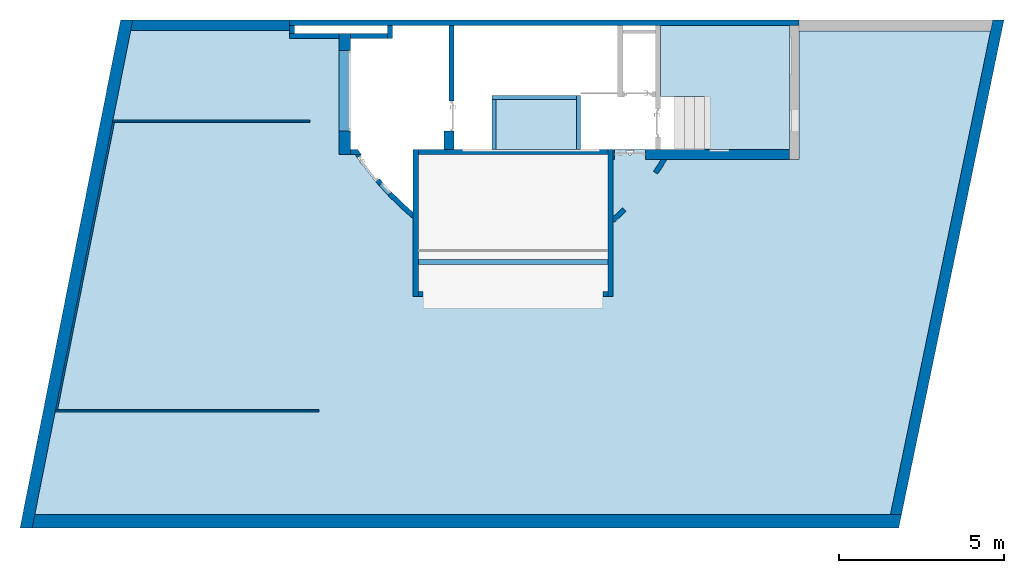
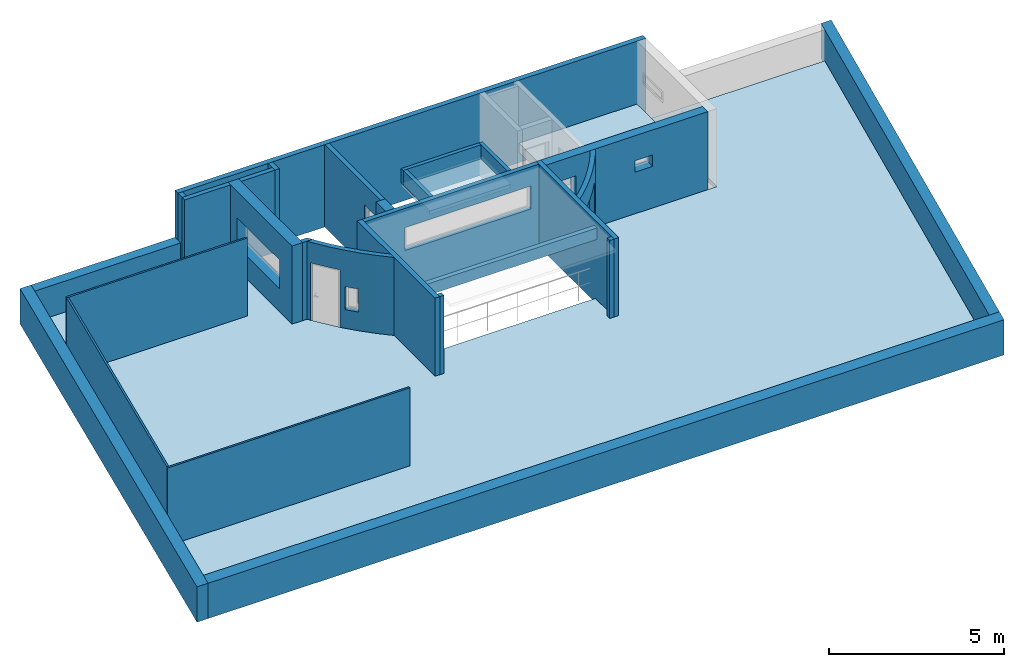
"""IFC4 building model written with IfcOpenShell, lengths in metres."""

from ifc_helpers import new_model, entity, si_unit, converted_unit, derived_unit, frame, frame_2d, origin, origin_with_axes, place, context, subcontext, project, spatial, polyline, rectangle, outline, extrude, clip, bounded_halfspace, faceted_brep, material, layer, layer_set, layer_usage, element, save


model = new_model("IFC4")

# Units and contexts
model_context = context("Model", 3, precision=1e-05, world=origin())
body_context = subcontext(model_context, "Body", "Model", "MODEL_VIEW")
ifc_project = project(units=[si_unit("LENGTHUNIT", "METRE"), si_unit("AREAUNIT", "SQUARE_METRE"), si_unit("VOLUMEUNIT", "CUBIC_METRE"), si_unit("MASSUNIT", "GRAM", prefix="KILO"), converted_unit("PLANEANGLEUNIT", "DEGREE", entity("IfcPlaneAngleMeasure", 0.0174532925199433), si_unit("PLANEANGLEUNIT", "RADIAN"), dimensions=[0, 0, 0, 0, 0, 0, 0]), derived_unit("THERMALTRANSMITTANCEUNIT", [(si_unit("POWERUNIT", "WATT"), 1), (si_unit("THERMODYNAMICTEMPERATUREUNIT", "KELVIN"), -1), (si_unit("LENGTHUNIT", "METRE"), -2)]), derived_unit("VOLUMETRICFLOWRATEUNIT", [(si_unit("LENGTHUNIT", "METRE"), 3), (converted_unit("TIMEUNIT", "hour", entity("IfcTimeMeasure", 3600.0), si_unit("TIMEUNIT", "SECOND"), dimensions=[0, 0, 1, 0, 0, 0, 0]), -1), (si_unit("LENGTHUNIT", "METRE"), -1)])], contexts=[model_context])

# Building, storeys
building_placement = place(None, origin())
building = spatial("IfcBuilding", under=ifc_project, at=building_placement, Name="HABITATGE PLURIFAMILIAR", CompositionType="ELEMENT")
storey_1_placement = place(building_placement, frame((0.0, 0.0, 21.2)))
storey_1 = spatial("IfcBuildingStorey", under=building, at=storey_1_placement, Name="PLANTA SOTACOBERTA", CompositionType="ELEMENT", Elevation=21.2)
storey_2_placement = place(storey_1_placement, origin())
storey_2 = spatial("IfcBuildingStorey", under=storey_1, at=storey_2_placement, Name="NOU", CompositionType="PARTIAL")

# Beam
beam_placement = place(storey_2_placement, frame((409.744883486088, 20.8286756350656, 2.27)))
element("IfcBeam", 1, at=beam_placement, inside=storey_2, Name="Jàssera PSC", PredefinedType="NOTDEFINED", context=body_context, shape_type="Brep", body=[
    faceted_brep([(5.74204814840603, 0.0, 0.0), (0.0, 0.0, 0.0), (0.0, 0.0, 0.4), (5.74204814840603, 0.0, 0.4), (0.0, 0.150000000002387, 0.0), (0.0, 0.150000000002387, 0.4), (5.74204814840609, 0.15, 0.0), (5.74204814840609, 0.15, 0.4)], [[[0, 1, 2, 3]], [[1, 4, 5, 2]], [[4, 6, 7, 5]], [[6, 0, 3, 7]], [[7, 3, 2, 5]], [[0, 6, 4, 1]]], orient=[[False], [False], [False], [False], [False], [False]]),
])

# Slabs
slab_1_placement = place(storey_2_placement, frame((417.076931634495, 24.3095914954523, 0.38)))
element("IfcSlab", 2, at=slab_1_placement, inside=storey_2, Name="Forjat PSC", PredefinedType="FLOOR", context=body_context, shape_type="SweptSolid", body=[
    extrude(outline(polyline([(0.0, 3.76865640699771), (0.0, 1.60750000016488), (1.3285, 1.60750000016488), (1.3285, 0.0), (3.90000000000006, 0.0), (3.90000000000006, 3.76865640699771), (0.0, 3.76865640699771)])), origin_with_axes(), (0.0, 0.0, 1.0), 0.3),
])
slab_2_placement = place(storey_2_placement, frame((398.128939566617, 13.2489804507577, 0.0)))
element("IfcSlab", 3, at=slab_2_placement, inside=storey_2, Name="Paviment PSC", PredefinedType="FLOOR", context=body_context, shape_type="SweptSolid", body=[
    extrude(outline(polyline([(7.70797842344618, 14.6592674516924), (2.90388164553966, 14.6592674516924), (0.0, 0.0), (25.9097949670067, 0.0), (28.9452529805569, 14.6492674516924), (23.1479920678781, 14.6492674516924), (23.1479920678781, 10.7606110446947), (19.1424431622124, 10.7606110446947), (19.0182072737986, 10.5501226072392), (19.0176613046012, 10.5504895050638), (18.8582202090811, 10.3132301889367), (18.7337206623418, 10.396895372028), (18.8808406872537, 10.6158200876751), (18.9675016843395, 10.7606110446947), (18.4929920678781, 10.7606110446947), (18.4929920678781, 11.0606110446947), (17.552992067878, 11.0606110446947), (17.552992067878, 10.7606110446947), (17.507992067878, 10.7606110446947), (17.507992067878, 9.01983134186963), (17.6227632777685, 9.11994710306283), (17.7813356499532, 9.27101005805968), (17.8048103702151, 9.29375739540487), (17.9091943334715, 9.18603558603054), (17.9019655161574, 9.17903075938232), (17.9022586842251, 9.17868547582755), (17.8253364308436, 9.1028507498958), (17.7474354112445, 9.02802181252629), (17.6685687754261, 8.95421129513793), (17.5887498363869, 8.8814316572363), (17.5079920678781, 8.80969518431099), (17.5079920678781, 7.67969518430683), (11.455943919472, 7.67969518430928), (11.455943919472, 8.95793246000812), (11.4216480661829, 8.98516355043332), (11.0664212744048, 9.29888683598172), (10.7281003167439, 9.63077130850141), (10.423304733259, 9.96281235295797), (10.3252926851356, 10.0795910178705), (9.7685709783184, 10.8090410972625), (9.70786206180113, 10.900587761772), (9.2179158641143, 10.9006110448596), (9.2179158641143, 14.4206110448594), (7.7079894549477, 14.4206110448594), (7.70797842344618, 14.6592674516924)]), holes=[polyline([(18.152892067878, 11.0258110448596), (18.0241920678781, 10.8643110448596), (17.8930920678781, 11.0238110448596), (18.152892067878, 11.0258110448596)])]), origin_with_axes(), (0.0, 0.0, 1.0), 0.15),
])
slab_3_placement = place(storey_2_placement, frame((414.536931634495, 24.3095914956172, 2.37)))
element("IfcSlab", 4, at=slab_3_placement, inside=storey_2, Name="Fals sostre PSC", PredefinedType="NOTDEFINED", context=body_context, shape_type="Brep", body=[
    faceted_brep([(0.0, 0.0, 0.0), (0.0, 1.62999999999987, 0.0), (0.0, 1.62999999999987, 0.5), (0.0, 0.0, 0.5), (0.12, 1.62999999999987, 0.0), (0.12, 1.62999999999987, 0.5), (0.12, 0.0, 0.0), (0.12, 0.0, 0.5)], [[[0, 1, 2, 3]], [[1, 4, 5, 2]], [[4, 6, 7, 5]], [[6, 0, 3, 7]], [[7, 3, 2, 5]], [[0, 6, 4, 1]]], orient=[[False], [False], [False], [False], [False], [False]]),
])
slab_4_placement = place(storey_2_placement, frame((411.976449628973, 24.3095914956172, 2.25)))
element("IfcSlab", 5, at=slab_4_placement, inside=storey_2, Name="Fals sostre PSC", PredefinedType="FLOOR", context=body_context, shape_type="SweptSolid", body=[
    extrude(rectangle(XDim=1.62999999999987, YDim=2.68048200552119, at=frame_2d((1.34024100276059, -0.814999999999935), x_axis=(0.0, -1.0))), frame((0.0, 1.62999999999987, 0.0), z_axis=(0.0, 0.0, 1.0), x_axis=(1.0, 0.0, 0.0)), (0.0, 0.0, 1.0), 0.12),
])
slab_5_placement = place(storey_2_placement, frame((411.976449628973, 25.8195914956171, 2.37)))
element("IfcSlab", 6, at=slab_5_placement, inside=storey_2, Name="Fals sostre PSC", PredefinedType="NOTDEFINED", context=body_context, shape_type="Brep", body=[
    faceted_brep([(2.56048200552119, 0.0, 0.0), (0.0, 0.0, 0.0), (0.0, 0.0, 0.5), (2.56048200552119, 0.0, 0.5), (0.0, 0.12, 0.0), (0.0, 0.12, 0.5), (2.56048200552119, 0.12, 0.0), (2.56048200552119, 0.12, 0.5)], [[[0, 1, 2, 3]], [[1, 4, 5, 2]], [[4, 6, 7, 5]], [[6, 0, 3, 7]], [[7, 3, 2, 5]], [[0, 6, 4, 1]]], orient=[[False], [False], [False], [False], [False], [False]]),
])
slab_6_placement = place(storey_2_placement, frame((411.976449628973, 24.3095914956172, 2.37)))
element("IfcSlab", 7, at=slab_6_placement, inside=storey_2, Name="Fals sostre PSC", PredefinedType="NOTDEFINED", context=body_context, shape_type="Brep", body=[
    faceted_brep([(0.12, 1.50999999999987, 0.0), (0.12, 0.0, 0.0), (0.12, 0.0, 0.5), (0.12, 1.50999999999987, 0.5), (0.0, 0.0, 0.0), (0.0, 0.0, 0.5), (0.0, 1.50999999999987, 0.0), (0.0, 1.50999999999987, 0.5)], [[[0, 1, 2, 3]], [[1, 4, 5, 2]], [[4, 6, 7, 5]], [[6, 0, 3, 7]], [[7, 3, 2, 5]], [[0, 6, 4, 1]]], orient=[[False], [False], [False], [False], [False], [False]]),
])

# Wall, openings
ifc_material_1 = material()
ifc_layer_1 = layer(ifc_material_1, 0.3)
ifc_layer_set_1 = layer_set([ifc_layer_1])
ifc_layer_usage_1 = layer_usage(ifc_layer_set_1, "AXIS2", "POSITIVE", 0.0)
wall_1_placement = place(storey_2_placement, frame((415.636931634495, 24.0095914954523, 0.0)))
wall_1 = element("IfcWall", 8, at=wall_1_placement, inside=storey_2, material=ifc_layer_usage_1, Name="Mur PSC", context=body_context, shape_type="SweptSolid", body=[
    extrude(rectangle(XDim=5.34, YDim=0.3, at=frame_2d((2.67, 0.15), x_axis=(1.0, 0.0))), origin_with_axes(), (0.0, 0.0, 1.0), 2.87),
])
opening_1_placement = place(wall_1_placement, frame((2.93, 0.0, 1.6), z_axis=(0.0, 1.0, 0.0), x_axis=(0.0, 0.0, 1.0)))
element("IfcOpeningElement", 9, at=opening_1_placement, cuts=wall_1, Name="Vano finestra PSC", ObjectType="Opening", context=body_context, shape_type="SweptSolid", body=[
    extrude(outline(polyline([(0.4, 0.59), (0.4, 0.0), (0.0, 0.0), (0.0, 0.59), (0.4, 0.59)])), origin_with_axes(), (0.0, 0.0, 1.0), 0.3),
])
opening_2_placement = place(wall_1_placement, frame((0.0449999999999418, 0.0, 0.0), z_axis=(0.0, 1.0, 0.0), x_axis=(0.0, 0.0, 1.0)))
element("IfcOpeningElement", 10, at=opening_2_placement, cuts=wall_1, Name="Vano porta PSC", ObjectType="Opening", context=body_context, shape_type="SweptSolid", body=[
    extrude(outline(polyline([(2.15, 0.94), (2.15, 0.0), (0.0, 0.0), (0.0, 0.94), (2.15, 0.94)])), origin_with_axes(), (0.0, 0.0, 1.0), 0.3),
])

# Wall
ifc_material_2 = material()
ifc_layer_2 = layer(ifc_material_2, 0.3)
ifc_layer_set_2 = layer_set([ifc_layer_2])
ifc_layer_usage_2 = layer_usage(ifc_layer_set_2, "AXIS2", "POSITIVE", 0.0)
wall_2_placement = place(storey_2_placement, frame((410.526931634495, 24.859595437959, 0.0), z_axis=(0.0, 0.0, 1.0), x_axis=(0.0, -1.0, 0.0)))
element("IfcWall", 11, at=wall_2_placement, inside=storey_2, material=ifc_layer_usage_2, Name="Mur PSC", context=body_context, shape_type="SweptSolid", body=[
    extrude(rectangle(XDim=0.550003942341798, YDim=0.3, at=frame_2d((0.275001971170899, 0.15), x_axis=(1.0, 0.0))), origin_with_axes(), (0.0, 0.0, 1.0), 2.87),
])

# Wall, opening
ifc_material_3 = material()
ifc_layer_3 = layer(ifc_material_3, 0.15)
ifc_layer_set_3 = layer_set([ifc_layer_3])
ifc_layer_usage_3 = layer_usage(ifc_layer_set_3, "AXIS2", "POSITIVE", 0.0)
wall_3_placement = place(storey_2_placement, frame((409.744883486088, 24.1595914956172, 0.0)))
wall_3 = element("IfcWall", 12, at=wall_3_placement, inside=storey_2, material=ifc_layer_usage_3, Name="Mur PSC", context=body_context, shape_type="SweptSolid", body=[
    extrude(rectangle(XDim=5.74204814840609, YDim=0.15, at=frame_2d((2.87102407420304, 0.075), x_axis=(1.0, 0.0))), origin_with_axes(), (0.0, 0.0, 1.0), 2.87),
])
opening_3_placement = place(wall_3_placement, frame((1.33204814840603, 0.0, 1.4), z_axis=(0.0, 1.0, 0.0), x_axis=(0.0, 0.0, 1.0)))
element("IfcOpeningElement", 13, at=opening_3_placement, cuts=wall_3, Name="Vano ventana", ObjectType="Opening", context=body_context, shape_type="SweptSolid", body=[
    extrude(outline(polyline([(0.8, 4.16), (0.8, 0.0), (0.0, 0.0), (0.0, 4.16), (0.8, 4.16)])), origin_with_axes(), (0.0, 0.0, 1.0), 0.15),
])

# Walls
ifc_material_4 = material()
ifc_layer_4 = layer(ifc_material_4, 0.15)
ifc_layer_set_4 = layer_set([ifc_layer_4])
ifc_layer_usage_4 = layer_usage(ifc_layer_set_4, "AXIS2", "POSITIVE", 0.0)
wall_4_placement = place(storey_2_placement, frame((415.636931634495, 19.8586756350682, 0.0), z_axis=(0.0, 0.0, 1.0), x_axis=(0.0, 1.0, 0.0)))
element("IfcWall", 14, at=wall_4_placement, inside=storey_2, material=ifc_layer_usage_4, Name="Mur PSC", context=body_context, shape_type="SweptSolid", body=[
    extrude(rectangle(XDim=4.45091586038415, YDim=0.15, at=frame_2d((2.22545793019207, 0.075), x_axis=(1.0, 0.0))), origin_with_axes(), (0.0, 0.0, 1.0), 2.87),
])
ifc_material_5 = material()
ifc_layer_5 = layer(ifc_material_5, 0.16)
ifc_layer_set_5 = layer_set([ifc_layer_5])
ifc_layer_usage_5 = layer_usage(ifc_layer_set_5, "AXIS2", "POSITIVE", 0.0)
wall_5_placement = place(storey_2_placement, frame((409.744883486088, 19.8586756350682, 0.0), z_axis=(0.0, 0.0, 1.0), x_axis=(0.0, 1.0, 0.0)))
element("IfcWall", 15, at=wall_5_placement, inside=storey_2, material=ifc_layer_usage_5, Name="Mur PSC", context=body_context, shape_type="SweptSolid", body=[
    extrude(rectangle(XDim=4.45091586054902, YDim=0.16, at=frame_2d((2.22545793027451, 0.08), x_axis=(1.0, 0.0))), origin_with_axes(), (0.0, 0.0, 1.0), 2.87),
])

# Wall, opening
ifc_material_6 = material()
ifc_layer_6 = layer(ifc_material_6, 0.15)
ifc_layer_set_6 = layer_set([ifc_layer_6])
ifc_layer_usage_6 = layer_usage(ifc_layer_set_6, "AXIS2", "NEGATIVE", 0.15)
wall_6_placement = place(storey_2_placement, frame((410.80195081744, 27.804647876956, 0.0)))
wall_6 = element("IfcWall", 16, at=wall_6_placement, inside=storey_2, material=ifc_layer_usage_6, Name="Mur PSC", context=body_context, shape_type="SweptSolid", body=[
    extrude(outline(polyline([(0.00360128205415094, 0.0), (0.243177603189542, 0.208984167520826), (0.525257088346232, 0.482323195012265), (0.792644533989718, 0.770050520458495), (1.04460704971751, 1.07137750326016), (1.28045402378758, 1.38547822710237), (1.49953901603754, 1.71149176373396), (1.63432443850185, 1.93668776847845), (1.45950961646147, 1.93668776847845), (1.37284861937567, 1.79189681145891), (1.15814532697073, 1.47240354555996), (0.927015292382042, 1.16458483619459), (0.680092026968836, 0.869284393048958), (0.418052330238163, 0.587311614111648), (0.141614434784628, 0.319439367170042), (0.0, 0.195908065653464), (0.0, 0.00426604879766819), (0.00360128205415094, 0.0)])), frame((4.83498081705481, -5.73174414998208, 0.0), z_axis=(0.0, 0.0, 1.0), x_axis=(1.0, 0.0, 0.0)), (0.0, 0.0, 1.0), 2.87),
])
opening_4_placement = place(wall_6_placement, frame((5.13179911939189, -5.36963184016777, 0.0)))
element("IfcOpeningElement", 17, at=opening_4_placement, cuts=wall_6, Name="Vano porta PSC", ObjectType="Opening", context=body_context, shape_type="Brep", body=[
    faceted_brep([(0.861327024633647, 1.11029123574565, 0.0), (0.630196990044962, 0.802472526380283, 0.0), (0.383273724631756, 0.507172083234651, 0.0), (0.121234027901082, 0.225199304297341, 0.0), (0.0, 0.107721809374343, 0.0), (0.104383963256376, 0.0, 0.0), (0.228438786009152, 0.120210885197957, 0.0), (0.495826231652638, 0.407938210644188, 0.0), (0.747788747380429, 0.709265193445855, 0.0), (0.983635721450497, 1.02336591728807, 0.0), (1.05340983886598, 1.1271946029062, 0.0), (0.928910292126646, 1.21085978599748, 0.0), (0.630196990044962, 0.802472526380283, 2.15), (0.861327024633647, 1.11029123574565, 2.15), (0.928910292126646, 1.21085978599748, 2.15), (1.05340983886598, 1.1271946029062, 2.15), (0.983635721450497, 1.02336591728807, 2.15), (0.747788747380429, 0.709265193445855, 2.15), (0.495826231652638, 0.407938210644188, 2.15), (0.228438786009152, 0.120210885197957, 2.15), (0.104383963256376, 0.0, 2.15), (0.0, 0.107721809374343, 2.15), (0.121234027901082, 0.225199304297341, 2.15), (0.383273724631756, 0.507172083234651, 2.15)], [[[0, 1, 2, 3, 4, 5, 6, 7, 8, 9, 10, 11]], [[12, 13, 14, 15, 16, 17, 18, 19, 20, 21, 22, 23]], [[1, 0, 13, 12]], [[2, 1, 12, 23]], [[3, 2, 23, 22]], [[4, 3, 22, 21]], [[5, 4, 21, 20]], [[6, 5, 20, 19]], [[7, 6, 19, 18]], [[8, 7, 18, 17]], [[9, 8, 17, 16]], [[10, 9, 16, 15]], [[11, 10, 15, 14]], [[0, 11, 14, 13]]], orient=[[False], [False], [False], [False], [False], [False], [False], [False], [False], [False], [False], [False], [False], [False]]),
])

ifc_material_7 = material()
ifc_layer_7 = layer(ifc_material_7, 0.35)
ifc_layer_set_7 = layer_set([ifc_layer_7])
ifc_layer_usage_7 = layer_usage(ifc_layer_set_7, "AXIS2", "POSITIVE", 0.0)
wall_7_placement = place(storey_2_placement, frame((407.346855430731, 27.8195954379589, 0.0), z_axis=(0.0, 0.0, 1.0), x_axis=(0.0, -1.0, 0.0)))
wall_7 = element("IfcWall", 18, at=wall_7_placement, inside=storey_2, material=ifc_layer_usage_7, Name="Mur PSC", context=body_context, shape_type="SweptSolid", body=[
    extrude(rectangle(XDim=3.67000394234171, YDim=0.35, at=frame_2d((1.83500197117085, 0.175), x_axis=(1.0, 0.0))), origin_with_axes(), (0.0, 0.0, 1.0), 2.87),
])
opening_5_placement = place(wall_7_placement, frame((0.510003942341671, 0.0, 0.95), z_axis=(0.0, 1.0, 0.0), x_axis=(0.0, 0.0, 1.0)))
element("IfcOpeningElement", 19, at=opening_5_placement, cuts=wall_7, Name="Vano finestra PSC", ObjectType="Opening", context=body_context, shape_type="SweptSolid", body=[
    extrude(outline(polyline([(1.0, 2.44), (1.0, 0.0), (0.0, 0.0), (0.0, 2.44), (1.0, 2.44)])), origin_with_axes(), (0.0, 0.0, 1.0), 0.35),
])

# Walls
wall_8_placement = place(storey_2_placement, frame((405.836929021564, 27.6695914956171, 0.0), z_axis=(0.0, 0.0, 1.0), x_axis=(0.999999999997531, 2.22212320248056e-06, 0.0)))
element("IfcWall", 20, at=wall_8_placement, inside=storey_2, Name="Mur PSC", context=body_context, shape_type="SweptSolid", body=[
    extrude(outline(polyline([(6.93350430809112e-06, 0.0), (1.50993334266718, -3.35525791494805e-06), (1.50993367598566, 0.149996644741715), (3.33318480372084e-07, 0.14999999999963), (6.93350430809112e-06, 0.0)])), frame((-6.93350430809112e-06, 0.0, 0.0), z_axis=(0.0, 0.0, 1.0), x_axis=(1.0, 0.0, 0.0)), (0.0, 0.0, 1.0), 2.87),
    extrude(outline(polyline([(0.0, 0.0), (1.1100742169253, -2.46672167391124e-06), (1.11006761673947, 0.149997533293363), (3.33318480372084e-07, 0.14999999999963), (0.0, 0.0)])), frame((1.85992640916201, -4.13298562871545e-06, 0.0), z_axis=(0.0, 0.0, 1.0), x_axis=(1.0, 0.0, 0.0)), (0.0, 0.0, 1.0), 2.87),
    extrude(outline(polyline([(0.149989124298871, 6.59970730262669e-06), (0.0, 0.0), (0.149989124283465, -3.3329431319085e-07), (0.149989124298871, 6.59970730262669e-06)])), frame((2.97000062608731, -6.59970730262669e-06, 0.0), z_axis=(0.0, 0.0, 1.0), x_axis=(1.0, 0.0, 0.0)), (0.0, 0.0, 1.0), 2.87),
])
ifc_material_8 = material()
ifc_layer_8 = layer(ifc_material_8, 0.149999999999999)
ifc_layer_set_8 = layer_set([ifc_layer_8])
ifc_layer_usage_8 = layer_usage(ifc_layer_set_8, "AXIS2", "POSITIVE", 0.0)
wall_9_placement = place(storey_2_placement, frame((408.806911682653, 28.05824790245, 0.0), z_axis=(0.0, 0.0, 1.0), x_axis=(4.62233620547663e-05, -0.9999999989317, 0.0)))
element("IfcWall", 21, at=wall_9_placement, inside=storey_2, material=ifc_layer_usage_8, Name="Mur PSC", context=body_context, shape_type="SweptSolid", body=[
    extrude(outline(polyline([(-0.388656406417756, 1.79650058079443e-05), (0.0, 1.79650058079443e-05), (0.0, 0.150017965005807), (-0.38864947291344, 0.150017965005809), (-0.388656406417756, 1.79650058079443e-05)])), frame((0.388656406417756, -1.79650058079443e-05, 0.0), z_axis=(0.0, 0.0, 1.0), x_axis=(1.0, 0.0, 0.0)), (0.0, 0.0, 1.0), 2.87),
])
ifc_material_9 = material()
ifc_layer_9 = layer(ifc_material_9, 0.150000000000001)
ifc_layer_set_9 = layer_set([ifc_layer_9])
ifc_layer_usage_9 = layer_usage(ifc_layer_set_9, "AXIS2", "POSITIVE", 0.0)
wall_10_placement = place(storey_2_placement, frame((405.836911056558, 28.05824790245, 0.0), z_axis=(0.0, 0.0, 1.0), x_axis=(4.62233620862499e-05, -0.9999999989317, 0.0)))
element("IfcWall", 22, at=wall_10_placement, inside=storey_2, material=ifc_layer_usage_9, Name="Mur PSC", context=body_context, shape_type="SweptSolid", body=[
    extrude(outline(polyline([(-0.238656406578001, 1.10315015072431e-05), (0.0, 1.10315015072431e-05), (6.93401423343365e-06, 0.150011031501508), (-0.23864947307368, 0.150011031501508), (-0.238656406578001, 1.10315015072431e-05)])), frame((0.238656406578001, -1.10315015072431e-05, 0.0), z_axis=(0.0, 0.0, 1.0), x_axis=(1.0, 0.0, 0.0)), (0.0, 0.0, 1.0), 2.87),
])

# Wall, opening
ifc_material_10 = material()
ifc_layer_10 = layer(ifc_material_10, 0.15)
ifc_layer_set_10 = layer_set([ifc_layer_10])
ifc_layer_usage_10 = layer_usage(ifc_layer_set_10, "AXIS2", "POSITIVE", 0.0)
wall_11_placement = place(storey_2_placement, frame((410.826931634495, 24.859595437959, 0.0), z_axis=(0.0, 0.0, 1.0), x_axis=(0.0, 1.0, 0.0)))
wall_11 = element("IfcWall", 23, at=wall_11_placement, inside=storey_2, material=ifc_layer_usage_10, Name="Evans PSC", context=body_context, shape_type="SweptSolid", body=[
    extrude(rectangle(XDim=3.19865246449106, YDim=0.15, at=frame_2d((1.59932623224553, 0.075), x_axis=(1.0, 0.0))), origin_with_axes(), (0.0, 0.0, 1.0), 2.87),
])
opening_6_placement = place(wall_11_placement, frame((0.909996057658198, 0.15, 0.0), z_axis=(0.0, -1.0, 0.0), x_axis=(0.0, 0.0, 1.0)))
element("IfcOpeningElement", 24, at=opening_6_placement, cuts=wall_11, Name="Vano porta PSC", ObjectType="Opening", context=body_context, shape_type="SweptSolid", body=[
    extrude(outline(polyline([(2.15, 0.909996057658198), (2.15, 0.0), (0.0, 0.0), (0.0, 0.909996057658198), (2.15, 0.909996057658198)])), origin_with_axes(), (0.0, 0.0, 1.0), 0.15),
])

# Walls
ifc_material_11 = material()
ifc_layer_11 = layer(ifc_material_11, 0.06)
ifc_layer_set_11 = layer_set([ifc_layer_11])
ifc_layer_usage_11 = layer_usage(ifc_layer_set_11, "AXIS2", "POSITIVE", 0.0)
wall_12_placement = place(storey_2_placement, frame((406.454678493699, 25.1985914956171, 0.0), z_axis=(0.0, 0.0, 1.0), x_axis=(-1.0, 6.10514803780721e-16, 0.0)))
element("IfcWall", 25, at=wall_12_placement, inside=storey_2, material=ifc_layer_usage_11, Name="Evans PSC", context=body_context, shape_type="Clipping", body=[
    clip(extrude(outline(polyline([(-5.970756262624, -0.0600000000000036), (-0.0118855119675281, -0.0600000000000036), (0.0, 0.0), (-0.0611658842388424, 0.0), (-5.970756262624, 0.0), (-5.970756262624, -0.0600000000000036)])), frame((5.970756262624, 0.0600000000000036, 0.0), z_axis=(0.0, 0.0, 1.0), x_axis=(1.0, 0.0, 0.0)), (0.0, 0.0, 1.0), 2.87), bounded_halfspace(frame((5.96468721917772, 0.03, 1.23), z_axis=(0.0, 0.0, 1.0), x_axis=(1.0, 6.10514803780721e-16, 0.0)), True, origin_with_axes(), polyline([(5.95861817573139, 0.0), (5.95887075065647, 0.0), (5.970756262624, 0.06), (5.97050368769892, 0.0599999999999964), (5.95861817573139, 0.0)]))),
])
ifc_material_12 = material()
ifc_layer_12 = layer(ifc_material_12, 0.0599921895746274)
ifc_layer_set_12 = layer_set([ifc_layer_12])
ifc_layer_usage_12 = layer_usage(ifc_layer_set_12, "AXIS2", "POSITIVE", 0.0)
wall_13_placement = place(storey_2_placement, frame((406.731338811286, 16.4195914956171, 0.0), z_axis=(0.0, 0.0, 1.0), x_axis=(-0.999999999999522, -9.77957740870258e-07, 0.0)))
element("IfcWall", 26, at=wall_13_placement, inside=storey_2, material=ifc_layer_usage_12, Name="Evans PSC", context=body_context, shape_type="Clipping", body=[
    clip(extrude(outline(polyline([(-7.98646513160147, -0.0599921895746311), (-0.073049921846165, -0.0599921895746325), (-0.0168448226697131, -0.0599922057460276), (-0.0118840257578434, -0.0599921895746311), (0.0, 0.0), (-7.98646507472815, 7.8104253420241e-06), (-7.98646513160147, -0.0599921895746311)])), frame((7.98646513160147, 0.0599921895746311, 0.0), z_axis=(0.0, 0.0, 1.0), x_axis=(1.0, 0.0, 0.0)), (0.0, 0.0, 1.0), 2.87), bounded_halfspace(frame((7.98039683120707, 0.0299960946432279, 1.23), z_axis=(0.0, 0.0, 1.0), x_axis=(0.999999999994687, 3.25984056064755e-06, 0.0)), True, origin_with_axes(), polyline([(7.97432853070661, 0.0), (7.97458110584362, 0.0), (7.98646513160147, 0.0599921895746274), (7.98621255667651, 0.0599921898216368), (7.97432853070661, 0.0)]))),
])

# Wall, openings
ifc_material_13 = material()
ifc_layer_13 = layer(ifc_material_13, 0.15)
ifc_layer_set_13 = layer_set([ifc_layer_13])
ifc_layer_usage_13 = layer_usage(ifc_layer_set_13, "AXIS2", "NEGATIVE", 0.15)
wall_14_placement = place(storey_2_placement, frame((415.363278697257, 29.1737875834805, 0.0)))
wall_14 = element("IfcWall", 27, at=wall_14_placement, inside=storey_2, material=ifc_layer_usage_13, Name="Mur PSC", context=body_context, shape_type="SweptSolid", body=[
    extrude(outline(polyline([(0.0, 1.9415914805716), (0.115736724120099, 1.76706504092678), (0.397974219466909, 1.38634155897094), (0.699750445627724, 1.02091101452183), (1.02023825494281, 0.671775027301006), (1.35855921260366, 0.339890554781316), (1.71378600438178, 0.0261672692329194), (1.74674204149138, 0.0), (1.74808185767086, 0.00161476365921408), (1.74808185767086, 0.196002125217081), (1.46079777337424, 0.449720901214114), (1.12808477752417, 0.776104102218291), (0.812909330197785, 1.11945285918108), (0.516135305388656, 1.47882607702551), (0.238576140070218, 1.85323873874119), (0.124757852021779, 2.02487225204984), (0.124615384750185, 2.0247771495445), (0.179764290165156, 1.94161476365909), (3.48789754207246e-05, 1.94161476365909), (0.0, 1.9415914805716)])), frame((-7.52647706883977, -6.96581085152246, 0.0), z_axis=(0.0, 0.0, 1.0), x_axis=(1.0, 0.0, 0.0)), (0.0, 0.0, 1.0), 2.87),
])
opening_7_placement = place(wall_14_placement, frame((-6.8225502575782, -5.97256571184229, 0.8), z_axis=(0.736684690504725, 0.676236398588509, 0.0), x_axis=(0.0, 0.0, 1.0)))
element("IfcOpeningElement", 28, at=opening_7_placement, cuts=wall_14, Name="Vano finestra PSC", ObjectType="Opening", context=body_context, shape_type="SweptSolid", body=[
    extrude(outline(polyline([(0.0, 0.0), (0.0, 0.399999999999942), (0.8, 0.399999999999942), (0.8, 0.0), (0.0, 0.0), (0.0, 0.399999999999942), (0.8, 0.399999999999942), (0.8, 0.0), (0.0, 0.0), (0.0, 0.399999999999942), (0.0, 0.0)])), origin_with_axes(), (0.0, 0.0, 1.0), 0.165632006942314),
])
opening_8_placement = place(wall_14_placement, frame((-7.46576813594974, -5.84521611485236, 0.0)))
element("IfcOpeningElement", 29, at=opening_8_placement, cuts=wall_14, Name="Vano porta PSC", ObjectType="Opening", context=body_context, shape_type="Brep", body=[
    faceted_brep([(0.672381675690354, 0.095513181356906, 0.0), (0.455426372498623, 0.3582313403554, 0.0), (0.177867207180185, 0.732644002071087, 0.0), (0.125010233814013, 0.812350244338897, 0.0), (0.0, 0.729450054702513, 0.0), (0.0550277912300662, 0.646470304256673, 0.0), (0.337265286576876, 0.265746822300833, 0.0), (0.55672169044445, 0.0, 0.0), (0.455426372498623, 0.3582313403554, 2.15), (0.672381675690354, 0.095513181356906, 2.15), (0.55672169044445, 0.0, 2.15), (0.337265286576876, 0.265746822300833, 2.15), (0.0550277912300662, 0.646470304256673, 2.15), (0.0, 0.729450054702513, 2.15), (0.125010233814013, 0.812350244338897, 2.15), (0.177867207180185, 0.732644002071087, 2.15)], [[[0, 1, 2, 3, 4, 5, 6, 7]], [[8, 9, 10, 11, 12, 13, 14, 15]], [[1, 0, 9, 8]], [[2, 1, 8, 15]], [[3, 2, 15, 14]], [[4, 3, 14, 13]], [[5, 4, 13, 12]], [[6, 5, 12, 11]], [[7, 6, 11, 10]], [[0, 7, 10, 9]]], orient=[[False], [False], [False], [False], [False], [False], [False], [False], [False], [False]]),
])

# Walls
ifc_material_14 = material()
ifc_layer_14 = layer(ifc_material_14, 0.15)
ifc_layer_set_14 = layer_set([ifc_layer_14])
ifc_layer_usage_14 = layer_usage(ifc_layer_set_14, "AXIS2", "POSITIVE", 0.0)
wall_15_placement = place(storey_2_placement, frame((407.696855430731, 24.1495914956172, 0.0)))
element("IfcWall", 30, at=wall_15_placement, inside=storey_2, material=ifc_layer_usage_14, context=body_context, shape_type="SweptSolid", body=[
    extrude(outline(polyline([(0.0, 0.0), (0.319710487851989, 0.0), (0.220238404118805, 0.15), (0.0, 0.15), (0.0, 0.0)])), origin_with_axes(), (0.0, 0.0, 1.0), 2.87),
])
ifc_material_15 = material()
ifc_layer_15 = layer(ifc_material_15, 0.17)
ifc_layer_set_15 = layer_set([ifc_layer_15])
ifc_layer_usage_15 = layer_usage(ifc_layer_set_15, "AXIS2", "POSITIVE", 0.0)
wall_16_placement = place(storey_2_placement, frame((421.276931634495, 28.22824790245, 0.0), z_axis=(0.0, 0.0, 1.0), x_axis=(-1.0, 0.0, 0.0)))
element("IfcWall", 31, at=wall_16_placement, inside=storey_2, material=ifc_layer_usage_15, context=body_context, shape_type="SweptSolid", body=[
    extrude(rectangle(XDim=15.4400284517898, YDim=0.17, at=frame_2d((7.72001422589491, 0.085), x_axis=(1.0, 0.0))), origin_with_axes(), (0.0, 0.0, 1.0), 2.87),
])
ifc_material_16 = material()
ifc_layer_16 = layer(ifc_material_16, 0.359999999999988)
ifc_layer_set_16 = layer_set([ifc_layer_16])
ifc_layer_usage_16 = layer_usage(ifc_layer_set_16, "AXIS2", "POSITIVE", 0.0)
wall_17_placement = place(storey_2_placement, frame((400.729215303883, 28.22824790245, 0.0), z_axis=(0.0, 0.0, 1.0), x_axis=(-0.194316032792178, -0.980938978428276, 0.0)))
element("IfcWall", 32, at=wall_17_placement, inside=storey_2, material=ifc_layer_usage_16, Name="Façana nord-oest PSC", context=body_context, shape_type="SweptSolid", body=[
    extrude(outline(polyline([(-15.6883025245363, 0.0), (0.0, 0.0), (-0.0713130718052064, 0.359999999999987), (-15.7596155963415, 0.35999999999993), (-15.6883025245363, 0.0)])), frame((15.6883025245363, 0.0, 0.0), z_axis=(0.0, 0.0, 1.0), x_axis=(1.0, 0.0, 0.0)), (0.0, 0.0, 1.0), 1.23),
])
ifc_material_17 = material()
ifc_layer_17 = layer(ifc_material_17, 0.41)
ifc_layer_set_17 = layer_set([ifc_layer_17])
ifc_layer_usage_17 = layer_usage(ifc_layer_set_17, "AXIS2", "POSITIVE", 0.0)
wall_18_placement = place(storey_2_placement, frame((398.047721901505, 12.8389804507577, 0.0)))
element("IfcWall", 33, at=wall_18_placement, inside=storey_2, material=ifc_layer_usage_17, Name="Evans PSC", context=body_context, shape_type="SweptSolid", body=[
    extrude(outline(polyline([(0.0, 0.0), (26.2430669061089, 0.0), (26.3280225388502, 0.41), (0.0812176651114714, 0.41), (0.0, 0.0)])), origin_with_axes(), (0.0, 0.0, 1.0), 1.23),
])
ifc_material_18 = material()
ifc_layer_18 = layer(ifc_material_18, 0.329999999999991)
ifc_layer_set_18 = layer_set([ifc_layer_18])
ifc_layer_usage_18 = layer_usage(ifc_layer_set_18, "AXIS2", "POSITIVE", 0.0)
wall_19_placement = place(storey_2_placement, frame((424.375744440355, 13.2489804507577, 0.0), z_axis=(0.0, 0.0, 1.0), x_axis=(0.202898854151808, 0.97919970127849, 0.0)))
element("IfcWall", 34, at=wall_19_placement, inside=storey_2, material=ifc_layer_usage_18, Name="Façana sur-est PSC", context=body_context, shape_type="SweptSolid", body=[
    extrude(outline(polyline([(0.0683789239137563, -0.329999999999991), (15.365838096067, -0.329999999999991), (15.2974591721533, 0.0), (0.0, 0.0), (0.0683789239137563, -0.329999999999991)])), frame((-0.0683789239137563, 0.329999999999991, 0.0), z_axis=(0.0, 0.0, 1.0), x_axis=(1.0, 0.0, 0.0)), (0.0, 0.0, 1.0), 1.23),
])
ifc_material_19 = material()
ifc_layer_19 = layer(ifc_material_19, 0.15)
ifc_layer_set_19 = layer_set([ifc_layer_19])
ifc_layer_usage_19 = layer_usage(ifc_layer_set_19, "AXIS2", "POSITIVE", 0.0)
wall_20_placement = place(storey_2_placement, frame((409.744883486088, 19.8586756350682, 0.0)))
element("IfcWall", 35, at=wall_20_placement, inside=storey_2, material=ifc_layer_usage_19, Name="Mur PSC", context=body_context, shape_type="SweptSolid", body=[
    extrude(rectangle(XDim=0.14, YDim=0.15, at=frame_2d((0.07, 0.075), x_axis=(1.0, 0.0))), origin_with_axes(), (0.0, 0.0, 1.0), 2.87),
])
ifc_material_20 = material()
ifc_layer_20 = layer(ifc_material_20, 0.15)
ifc_layer_set_20 = layer_set([ifc_layer_20])
ifc_layer_usage_20 = layer_usage(ifc_layer_set_20, "AXIS2", "POSITIVE", 0.0)
wall_21_placement = place(storey_2_placement, frame((415.336931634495, 19.8586756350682, 0.0)))
element("IfcWall", 36, at=wall_21_placement, inside=storey_2, material=ifc_layer_usage_20, Name="Mur PSC", context=body_context, shape_type="SweptSolid", body=[
    extrude(rectangle(XDim=0.15, YDim=0.15, at=frame_2d((0.075, 0.075), x_axis=(1.0, 0.0))), origin_with_axes(), (0.0, 0.0, 1.0), 2.87),
])
ifc_material_21 = material()
ifc_layer_21 = layer(ifc_material_21, 0.0599999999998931)
ifc_layer_set_21 = layer_set([ifc_layer_21])
ifc_layer_usage_21 = layer_usage(ifc_layer_set_21, "AXIS2", "POSITIVE", 0.0)
wall_22_placement = place(storey_2_placement, frame((400.483922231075, 25.1385914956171, 0.0), z_axis=(0.0, 0.0, 1.0), x_axis=(-0.194316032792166, -0.980938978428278, 0.0)))
element("IfcWall", 37, at=wall_22_placement, inside=storey_2, material=ifc_layer_usage_21, Name="Evans PSC", context=body_context, shape_type="Clipping", body=[
    clip(extrude(outline(polyline([(-8.88843036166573, 0.0), (0.0, 0.0), (-0.0118857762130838, 0.0599999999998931), (-8.90031615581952, 0.0599999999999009), (-8.88843036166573, 0.0)])), frame((8.88843036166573, 0.0, 0.0), z_axis=(0.0, 0.0, 1.0), x_axis=(1.0, 0.0, 0.0)), (0.0, 0.0, 1.0), 2.87), bounded_halfspace(frame((4.44419064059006, 0.000123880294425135, 1.23), z_axis=(0.0, 0.0, 1.0), x_axis=(0.19432047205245, -0.980938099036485, 0.0)), True, origin_with_axes(), polyline([(-4.90805226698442e-05, 0.000247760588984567), (0.0, 0.0), (8.88843036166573, 0.0), (8.88838128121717, 0.000247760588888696), (-4.90805226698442e-05, 0.000247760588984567)]))),
])
ifc_material_22 = material()
ifc_layer_22 = layer(ifc_material_22, 0.32)
ifc_layer_set_22 = layer_set([ifc_layer_22])
ifc_layer_usage_22 = layer_usage(ifc_layer_set_22, "AXIS2", "POSITIVE", 0.0)
wall_23_placement = place(storey_2_placement, frame((405.836903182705, 28.22824790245, 0.0), z_axis=(0.0, 0.0, 1.0), x_axis=(-1.0, 0.0, 0.0)))
element("IfcWall", 38, at=wall_23_placement, inside=storey_2, material=ifc_layer_usage_22, Name="Evans PSC", context=body_context, shape_type="SweptSolid", body=[
    extrude(outline(polyline([(-4.80408197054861, -0.32), (-0.0633893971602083, -0.32), (0.0, 0.0), (-4.80408197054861, 0.0), (-4.80408197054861, -0.32)])), frame((4.80408197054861, 0.32, 0.0), z_axis=(0.0, 0.0, 1.0), x_axis=(1.0, 0.0, 0.0)), (0.0, 0.0, 1.0), 1.23),
])

save(model, "model.ifc")
